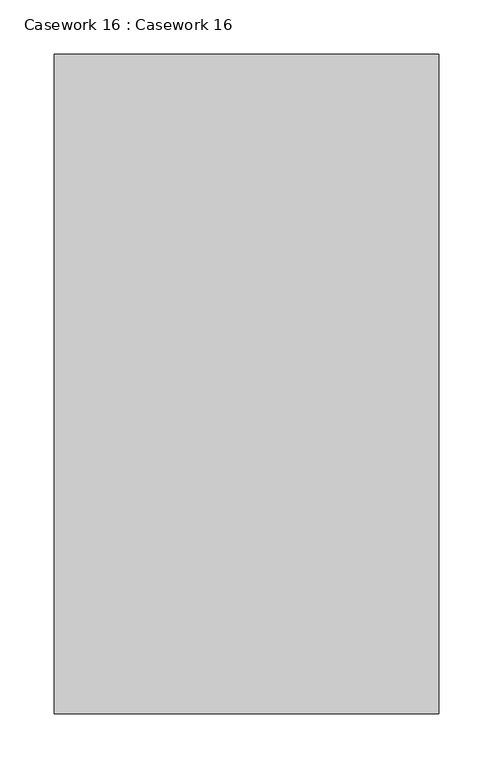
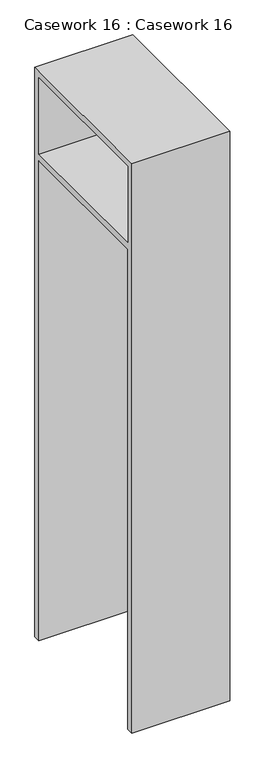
"""IFC4 building model written with IfcOpenShell, lengths in millimetres: furniture geometry, Casework 16 : Casework 16."""

from ifc_helpers import new_model, si_unit, frame, origin, place, context, project, spatial, polyline, outline, extrude, source, transform, mapped, element, save


def casework_16_casework_16_2de93c59(model_context):
    return source(origin(), model_context, "Body", "SweptSolid", [
        extrude(outline(polyline([(12991.9947939, 5435.6), (13601.5947939, 5435.6), (13601.5947939, 3251.2), (13576.1947818, 3251.2), (13576.1947818, 5092.7), (13017.3947946, 5092.7), (13017.3947946, 3251.2), (12991.9947939, 3251.2), (12991.9947939, 5435.6)]), holes=[polyline([(13576.1947818, 5410.2), (13017.3947946, 5410.2), (13017.3947946, 5118.1), (13576.1947818, 5118.1), (13576.1947818, 5410.2)])]), frame((2425.7, 0.0, 0.0), z_axis=(1.0, 0.0, 0.0), x_axis=(0.0, 1.0, 0.0)), (0.0, 0.0, 1.0), 355.6),
    ])


if __name__ == "__main__":
    model = new_model("IFC4")
    model_context = context("Model", 3, world=origin())
    ifc_project = project(units=[si_unit("LENGTHUNIT", "METRE", prefix="MILLI")], contexts=[model_context])
    site = spatial("IfcSite", under=ifc_project)
    building = spatial("IfcBuilding", under=site)
    placement = place(None, origin())
    casework_16_casework_16_shape = casework_16_casework_16_2de93c59(model_context)
    element("IfcFurniture", 1, ObjectType="Casework 16 : Casework 16", at=placement, inside=building, context=model_context, shape_type="MappedRepresentation", body=[
        mapped(casework_16_casework_16_shape, transform((0.0, 0.0, 0.0), x_axis=(1.0, 0.0, 0.0), y_axis=(0.0, 1.0, 0.0), z_axis=(0.0, 0.0, 1.0))),
    ])
    save(model, "model.ifc")
